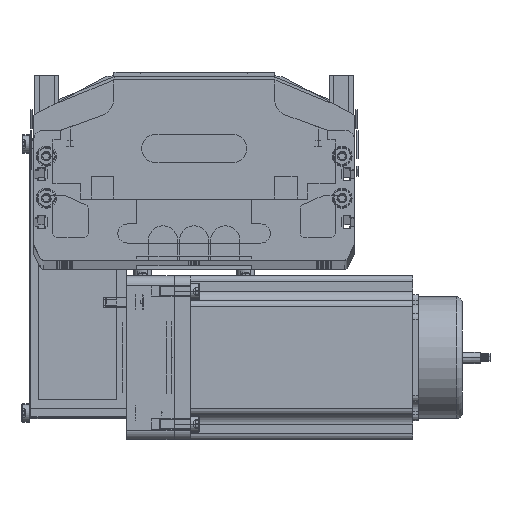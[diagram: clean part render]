
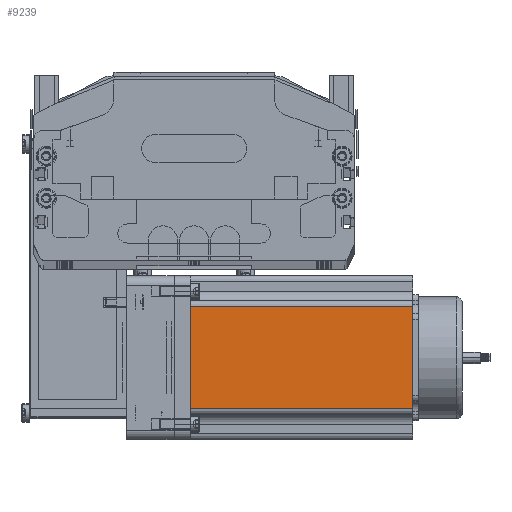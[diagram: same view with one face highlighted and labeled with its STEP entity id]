
A CAD part, top view. The second image highlights one B-rep face of the part: STEP entity #9239.
In plain terms, the highlighted planar face has unit normal (0, 0, 1) as drawn and (0, -1, 0) by its records, which use the part's own axes.
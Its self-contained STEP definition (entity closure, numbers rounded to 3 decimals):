
#8918 = ORIENTED_EDGE ( 'NONE', *, *, #8923, .T. ) ;
#8923 = EDGE_CURVE ( 'NONE', #9237, #9238, #19121, .T. ) ;
#9194 = EDGE_LOOP ( 'NONE', ( #8918, #9243, #9197, #9245 ) ) ;
#9197 = ORIENTED_EDGE ( 'NONE', *, *, #9244, .F. ) ;
#9237 = VERTEX_POINT ( 'NONE', #20413 ) ;
#9238 = VERTEX_POINT ( 'NONE', #20203 ) ;
#9239 = ADVANCED_FACE ( 'NONE', ( #20202 ), #20415, .F. ) ;
#9240 = VERTEX_POINT ( 'NONE', #20414 ) ;
#9241 = EDGE_CURVE ( 'NONE', #9238, #9242, #20312, .T. ) ;
#9242 = VERTEX_POINT ( 'NONE', #20313 ) ;
#9243 = ORIENTED_EDGE ( 'NONE', *, *, #9241, .T. ) ;
#9244 = EDGE_CURVE ( 'NONE', #9240, #9242, #20308, .T. ) ;
#9245 = ORIENTED_EDGE ( 'NONE', *, *, #9246, .T. ) ;
#9246 = EDGE_CURVE ( 'NONE', #9240, #9237, #20299, .T. ) ;
#19110 = DIRECTION ( 'NONE',  ( 1., 0., 0. ) ) ;
#19121 = LINE ( 'NONE', #19309, #19260 ) ;
#19260 = VECTOR ( 'NONE', #19110, 1000. ) ;
#19309 = CARTESIAN_POINT ( 'NONE',  ( 0., 0., 0. ) ) ;
#20199 = DIRECTION ( 'NONE',  ( 0., 1., 0. ) ) ;
#20200 = CARTESIAN_POINT ( 'NONE',  ( 0., 0., 116.5 ) ) ;
#20202 = FACE_OUTER_BOUND ( 'NONE', #9194, .T. ) ;
#20203 = CARTESIAN_POINT ( 'NONE',  ( 69.74, 0., 0. ) ) ;
#20209 = AXIS2_PLACEMENT_3D ( 'NONE', #20200, #20199, #20315 ) ;
#20296 = DIRECTION ( 'NONE',  ( 0., 0., -1. ) ) ;
#20297 = VECTOR ( 'NONE', #20296, 1000. ) ;
#20298 = CARTESIAN_POINT ( 'NONE',  ( 16.16, 0., 116.5 ) ) ;
#20299 = LINE ( 'NONE', #20298, #20297 ) ;
#20304 = DIRECTION ( 'NONE',  ( 1., 0., 0. ) ) ;
#20305 = VECTOR ( 'NONE', #20304, 1000. ) ;
#20307 = CARTESIAN_POINT ( 'NONE',  ( 0., 0., 116.5 ) ) ;
#20308 = LINE ( 'NONE', #20307, #20305 ) ;
#20309 = DIRECTION ( 'NONE',  ( 0., 0., 1. ) ) ;
#20310 = VECTOR ( 'NONE', #20309, 1000. ) ;
#20311 = CARTESIAN_POINT ( 'NONE',  ( 69.74, 0., 116.5 ) ) ;
#20312 = LINE ( 'NONE', #20311, #20310 ) ;
#20313 = CARTESIAN_POINT ( 'NONE',  ( 69.74, 0., 116.5 ) ) ;
#20315 = DIRECTION ( 'NONE',  ( 0., 0., 1. ) ) ;
#20413 = CARTESIAN_POINT ( 'NONE',  ( 16.16, 0., 0. ) ) ;
#20414 = CARTESIAN_POINT ( 'NONE',  ( 16.16, 0., 116.5 ) ) ;
#20415 = PLANE ( 'NONE',  #20209 ) ;
